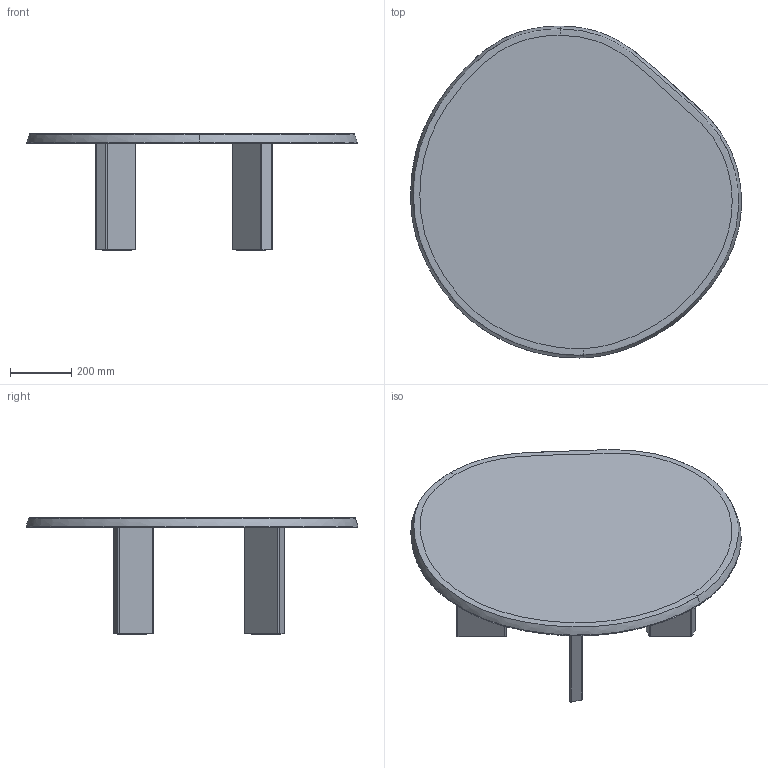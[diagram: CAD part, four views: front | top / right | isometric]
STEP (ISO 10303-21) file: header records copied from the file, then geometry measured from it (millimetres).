
FILE_DESCRIPTION(/* description */ (''),/* implementation_level */ '2;1');
FILE_NAME(/* name */ 'Tarn coffee table_3D',/* time_stamp */ '2024-09-03T15:26:39+02:00',/* author */ (''),/* organization */ (''),/* preprocessor_version */ 'ST-DEVELOPER v16.5',/* originating_system */ 'Rhino 7.37',/* authorisation */ '');
FILE_SCHEMA (('CONFIG_CONTROL_DESIGN'));
Length unit declared in the file: millimetre
Products named in the file (1): Document
Bounding box: 1076.39 x 1080.48 x 380 mm (x, y, z)
Volume: 35983508.3 mm3; surface area: 2637974.8 mm2
Topology: 13 solids, 13 shells, 264 faces, 590 edges, 384 vertices
Faces by surface type: cylinder 112, plane 90, bspline 62
Entity records: 9685 total; most frequent: CARTESIAN_POINT 5713, ORIENTED_EDGE 1180, EDGE_CURVE 590, VERTEX_POINT 384, EDGE_LOOP 352, ADVANCED_FACE 264, FACE_OUTER_BOUND 264, DIRECTION 206
